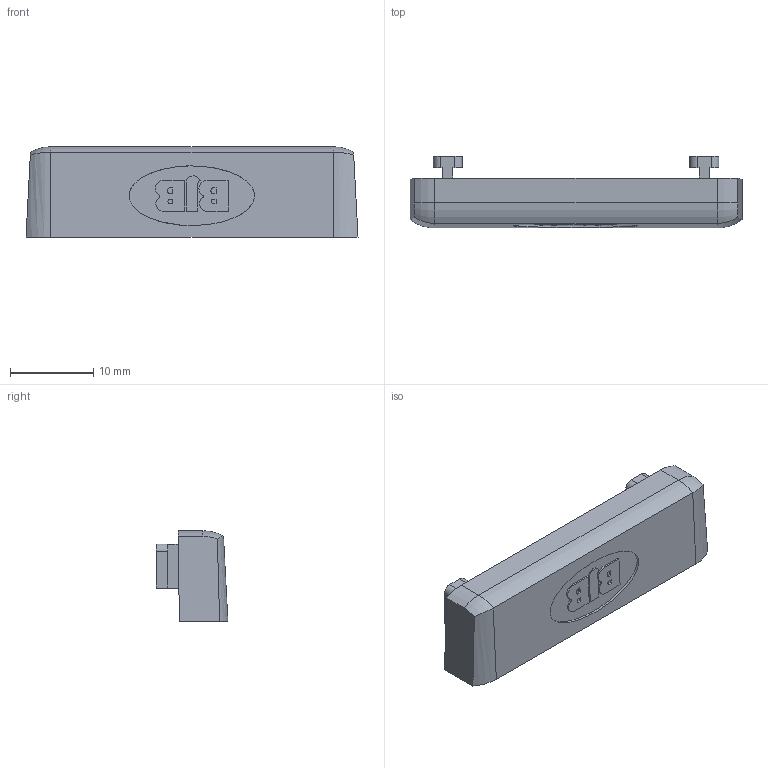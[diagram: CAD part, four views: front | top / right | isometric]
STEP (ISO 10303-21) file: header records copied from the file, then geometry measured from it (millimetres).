
FILE_DESCRIPTION(('CAx-IF Rec.Pracs.---Model Styling and Organization---1.2---2011-12-15','CAx-IF Rec.Pracs.---Geometric and Assembly Validation Properties---4.1---2014-06-16','CAx-IF Rec.Pracs.---PMI Polyline Presentation---2.0---2013-05-24'),'2;1');
FILE_NAME('021Y904Y02.stp','2018-05-18T06:18:26+02:00',(''),(''),'STEP Interface 4.1 Sp1 by CT CoreTechnologie','3D_Evolution4.1 Sp1 by CT CoreTechnologie','');
FILE_SCHEMA(('AUTOMOTIVE_DESIGN { 1 0 10303 214 1 1 1 1 }'));
Length unit declared in the file: millimetre
Products named in the file (1): 021-904-02
Bounding box: 40 x 8.65 x 10.9 mm (x, y, z)
Volume: 921.4 mm3; surface area: 1685.8 mm2
Topology: 1 solids, 1 shells, 95 faces, 247 edges, 162 vertices
Faces by surface type: plane 63, cylinder 24, bspline 8
Entity records: 3905 total; most frequent: CARTESIAN_POINT 769, ORIENTED_EDGE 494, DIRECTION 472, EDGE_CURVE 247, VECTOR 190, LINE 190, VERTEX_POINT 162, AXIS2_PLACEMENT_3D 141
